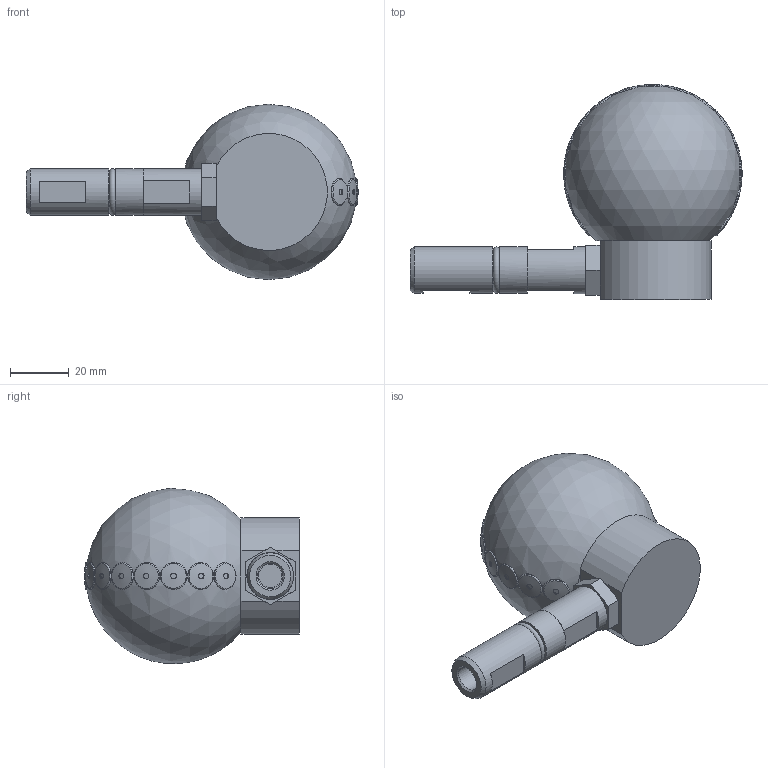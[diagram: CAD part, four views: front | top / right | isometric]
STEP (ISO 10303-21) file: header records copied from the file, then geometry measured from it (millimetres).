
FILE_DESCRIPTION( ( 'STEP AP214' ), '1' );
FILE_NAME( 'p:/temp/worker_110/temp/app_58_02018111516231580631550192d056f_000000_00_00_000000/format_0/AMF17582.stp', '2018-11-15T15:23:17', ( '' ), ( '' ), ' ', 'PARTsolutions', ' ' );
FILE_SCHEMA( ( 'AUTOMOTIVE_DESIGN { 1 0 10303 214 1 1 1 1 }' ) );
Length unit declared in the file: millimetre
Products named in the file (1): _AMF17582
Bounding box: 113.48 x 73.48 x 59.96 mm (x, y, z)
Volume: 142674.4 mm3; surface area: 19447.1 mm2
Topology: 1 solids, 1 shells, 120 faces, 245 edges, 148 vertices
Faces by surface type: plane 46, cylinder 39, torus 16, sphere 16, cone 3
Full cylindrical faces by diameter (mm): 2 x15, 8 x1, 8.566 x1, 9.2 x15, 11.445 x1, 12.7 x2, 15.87 x2, 16 x1
Entity records: 3580 total; most frequent: DIRECTION 502, CARTESIAN_POINT 406, ORIENTED_EDGE 308, AXIS2_PLACEMENT_3D 227, EDGE_LOOP 214, FACE_OUTER_BOUND 190, EDGE_CURVE 154, VERTEX_POINT 131
